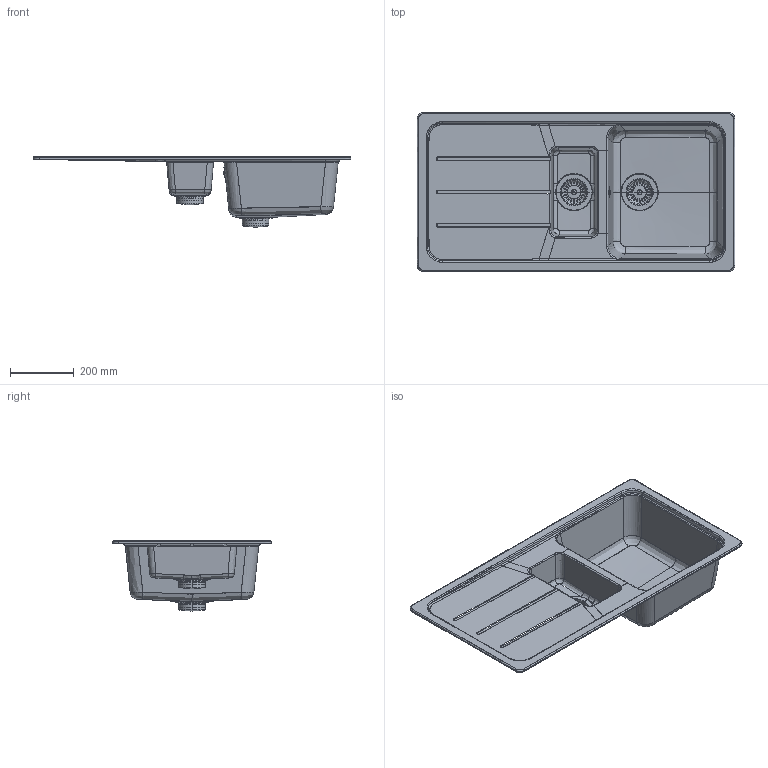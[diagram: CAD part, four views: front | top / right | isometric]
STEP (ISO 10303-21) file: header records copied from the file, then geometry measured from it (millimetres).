
FILE_DESCRIPTION(/* description */ (''),/* implementation_level */ '2;1');
FILE_NAME(/* name */ 'FOMD150L',/* time_stamp */ '2016-01-12T16:20:15+01:00',/* author */ (''),/* organization */ (''),/* preprocessor_version */ 'ST-DEVELOPER v15',/* originating_system */ '',/* authorisation */ '');
FILE_SCHEMA (('AUTOMOTIVE_DESIGN'));
Length unit declared in the file: millimetre
Products named in the file (1): Document
Bounding box: 1000 x 500 x 221.43 mm (x, y, z)
Volume: 59487.5 mm3; surface area: 894531.9 mm2
Topology: 6 solids, 258 shells, 528 faces, 1569 edges, 1285 vertices
Faces by surface type: bspline 473, plane 55
Entity records: 38572 total; most frequent: CARTESIAN_POINT 29719, ORIENTED_EDGE 2278, EDGE_CURVE 1554, VERTEX_POINT 1286, B_SPLINE_CURVE_WITH_KNOTS 1020, EDGE_LOOP 610, ADVANCED_FACE 528, FACE_OUTER_BOUND 528
